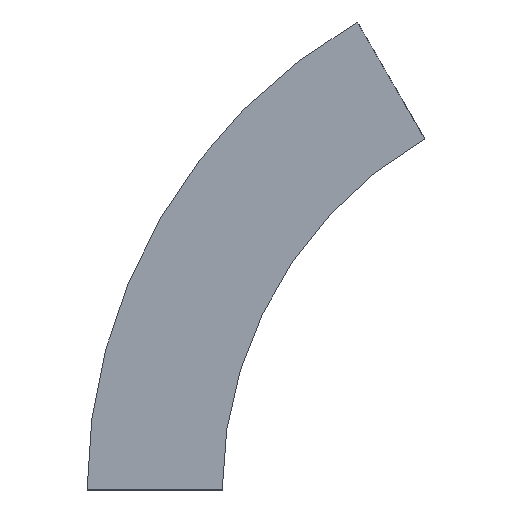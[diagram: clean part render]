
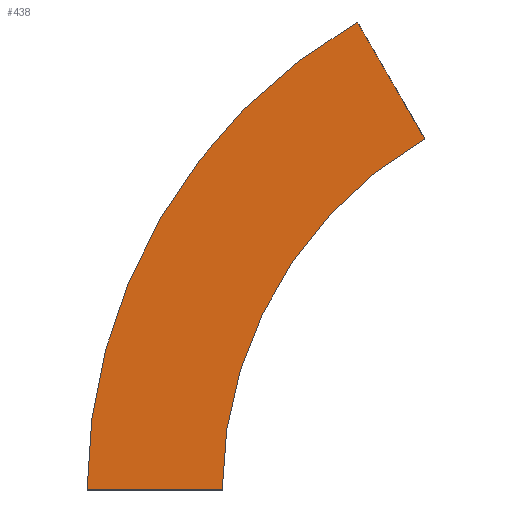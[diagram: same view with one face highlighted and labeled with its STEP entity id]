
A CAD part, left-side view. The second image highlights one B-rep face of the part: STEP entity #438.
In plain terms, the highlighted planar face has unit normal (-1, 0, 0) as drawn and (1, 0, 0) by its records, which use the part's own axes.
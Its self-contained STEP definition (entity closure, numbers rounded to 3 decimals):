
#11 = VERTEX_POINT ( 'NONE', #183 ) ;
#19 = CARTESIAN_POINT ( 'NONE',  ( 0., 0., 0. ) ) ;
#30 = CARTESIAN_POINT ( 'NONE',  ( 0., 100., 0. ) ) ;
#33 = AXIS2_PLACEMENT_3D ( 'NONE', #482, #433, #340 ) ;
#126 = DIRECTION ( 'NONE',  ( 0., 0.5, 0.866 ) ) ;
#132 = CARTESIAN_POINT ( 'NONE',  ( 0., 0., 0. ) ) ;
#135 = DIRECTION ( 'NONE',  ( 0., 1., 0. ) ) ;
#144 = EDGE_CURVE ( 'NONE', #11, #233, #385, .T. ) ;
#157 = DIRECTION ( 'NONE',  ( 1., 0., 0. ) ) ;
#168 = VECTOR ( 'NONE', #126, 1000. ) ;
#183 = CARTESIAN_POINT ( 'NONE',  ( 0., 0., 0. ) ) ;
#198 = EDGE_LOOP ( 'NONE', ( #486, #337, #431, #555 ) ) ;
#233 = VERTEX_POINT ( 'NONE', #30 ) ;
#242 = PLANE ( 'NONE',  #462 ) ;
#249 = DIRECTION ( 'NONE',  ( 1., 0., 0. ) ) ;
#251 = CIRCLE ( 'NONE', #304, 400. ) ;
#280 = CARTESIAN_POINT ( 'NONE',  ( 0., -150., 259.808 ) ) ;
#291 = LINE ( 'NONE', #381, #168 ) ;
#304 = AXIS2_PLACEMENT_3D ( 'NONE', #571, #249, #529 ) ;
#305 = EDGE_CURVE ( 'NONE', #458, #332, #291, .T. ) ;
#322 = EDGE_CURVE ( 'NONE', #11, #458, #388, .T. ) ;
#323 = FACE_OUTER_BOUND ( 'NONE', #198, .T. ) ;
#331 = CARTESIAN_POINT ( 'NONE',  ( 0., -100., 346.41 ) ) ;
#332 = VERTEX_POINT ( 'NONE', #331 ) ;
#337 = ORIENTED_EDGE ( 'NONE', *, *, #305, .F. ) ;
#340 = DIRECTION ( 'NONE',  ( 0., 1., 0. ) ) ;
#381 = CARTESIAN_POINT ( 'NONE',  ( 0., -150., 259.808 ) ) ;
#385 = LINE ( 'NONE', #132, #407 ) ;
#388 = CIRCLE ( 'NONE', #33, 300. ) ;
#407 = VECTOR ( 'NONE', #135, 1000. ) ;
#410 = DIRECTION ( 'NONE',  ( 0., 0., -1. ) ) ;
#431 = ORIENTED_EDGE ( 'NONE', *, *, #322, .F. ) ;
#433 = DIRECTION ( 'NONE',  ( 1., 0., 0. ) ) ;
#438 = ADVANCED_FACE ( 'NONE', ( #323 ), #242, .T. ) ;
#458 = VERTEX_POINT ( 'NONE', #280 ) ;
#462 = AXIS2_PLACEMENT_3D ( 'NONE', #19, #157, #410 ) ;
#482 = CARTESIAN_POINT ( 'NONE',  ( 0., -300., 0. ) ) ;
#486 = ORIENTED_EDGE ( 'NONE', *, *, #542, .T. ) ;
#529 = DIRECTION ( 'NONE',  ( 0., 1., 0. ) ) ;
#542 = EDGE_CURVE ( 'NONE', #233, #332, #251, .T. ) ;
#555 = ORIENTED_EDGE ( 'NONE', *, *, #144, .T. ) ;
#571 = CARTESIAN_POINT ( 'NONE',  ( 0., -300., 0. ) ) ;
